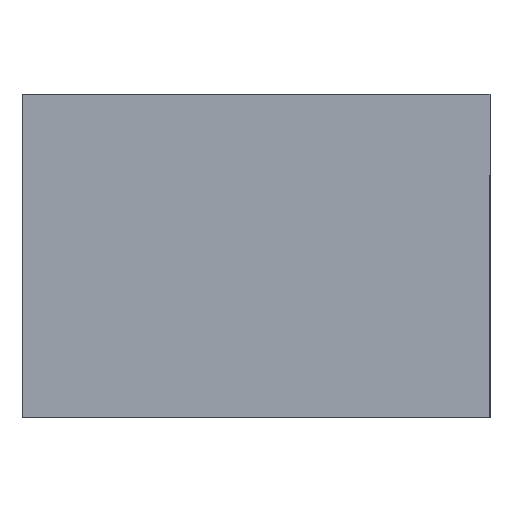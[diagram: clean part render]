
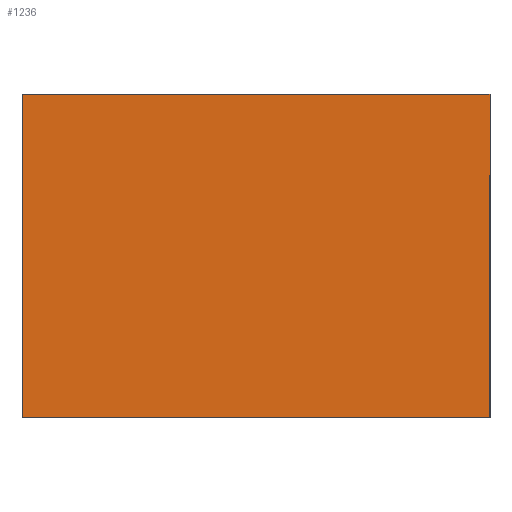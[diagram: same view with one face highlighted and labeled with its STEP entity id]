
A CAD part, front view. The second image highlights one B-rep face of the part: STEP entity #1236.
In plain terms, the highlighted planar face has unit normal (0, -1, 0).
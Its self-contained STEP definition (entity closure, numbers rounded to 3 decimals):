
#47 = VECTOR ( 'NONE', #1035, 1000. ) ;
#113 = LINE ( 'NONE', #1055, #47 ) ;
#130 = VERTEX_POINT ( 'NONE', #1509 ) ;
#248 = DIRECTION ( 'NONE',  ( 0., 0., 1. ) ) ;
#252 = DIRECTION ( 'NONE',  ( 0., 1., 0. ) ) ;
#265 = PLANE ( 'NONE',  #454 ) ;
#299 = CARTESIAN_POINT ( 'NONE',  ( 0., 0., 0. ) ) ;
#354 = VECTOR ( 'NONE', #1155, 1000. ) ;
#394 = LINE ( 'NONE', #1141, #354 ) ;
#454 = AXIS2_PLACEMENT_3D ( 'NONE', #299, #252, #248 ) ;
#474 = FACE_OUTER_BOUND ( 'NONE', #805, .T. ) ;
#540 = VERTEX_POINT ( 'NONE', #2189 ) ;
#621 = LINE ( 'NONE', #1241, #783 ) ;
#783 = VECTOR ( 'NONE', #1237, 1000. ) ;
#805 = EDGE_LOOP ( 'NONE', ( #982, #973, #2043, #1282 ) ) ;
#833 = EDGE_CURVE ( 'NONE', #1943, #540, #1434, .T. ) ;
#914 = EDGE_CURVE ( 'NONE', #540, #130, #621, .T. ) ;
#959 = EDGE_CURVE ( 'NONE', #130, #2015, #394, .T. ) ;
#973 = ORIENTED_EDGE ( 'NONE', *, *, #833, .F. ) ;
#982 = ORIENTED_EDGE ( 'NONE', *, *, #914, .F. ) ;
#997 = EDGE_CURVE ( 'NONE', #2015, #1943, #113, .T. ) ;
#1035 = DIRECTION ( 'NONE',  ( 0., 0., 1. ) ) ;
#1055 = CARTESIAN_POINT ( 'NONE',  ( -32.5, 0., -22.5 ) ) ;
#1141 = CARTESIAN_POINT ( 'NONE',  ( -32.5, 0., -22.5 ) ) ;
#1155 = DIRECTION ( 'NONE',  ( -1., 0., 0. ) ) ;
#1236 = ADVANCED_FACE ( 'NONE', ( #474 ), #265, .F. ) ;
#1237 = DIRECTION ( 'NONE',  ( 0., 0., -1. ) ) ;
#1241 = CARTESIAN_POINT ( 'NONE',  ( 32.5, 0., -22.5 ) ) ;
#1282 = ORIENTED_EDGE ( 'NONE', *, *, #959, .F. ) ;
#1373 = DIRECTION ( 'NONE',  ( 1., 0., 0. ) ) ;
#1377 = CARTESIAN_POINT ( 'NONE',  ( -32.5, 0., 22.5 ) ) ;
#1434 = LINE ( 'NONE', #1377, #1461 ) ;
#1461 = VECTOR ( 'NONE', #1373, 1000. ) ;
#1509 = CARTESIAN_POINT ( 'NONE',  ( 32.5, 0., -22.5 ) ) ;
#1909 = CARTESIAN_POINT ( 'NONE',  ( -32.5, 0., -22.5 ) ) ;
#1943 = VERTEX_POINT ( 'NONE', #2008 ) ;
#2008 = CARTESIAN_POINT ( 'NONE',  ( -32.5, 0., 22.5 ) ) ;
#2015 = VERTEX_POINT ( 'NONE', #1909 ) ;
#2043 = ORIENTED_EDGE ( 'NONE', *, *, #997, .F. ) ;
#2189 = CARTESIAN_POINT ( 'NONE',  ( 32.5, 0., 22.5 ) ) ;
